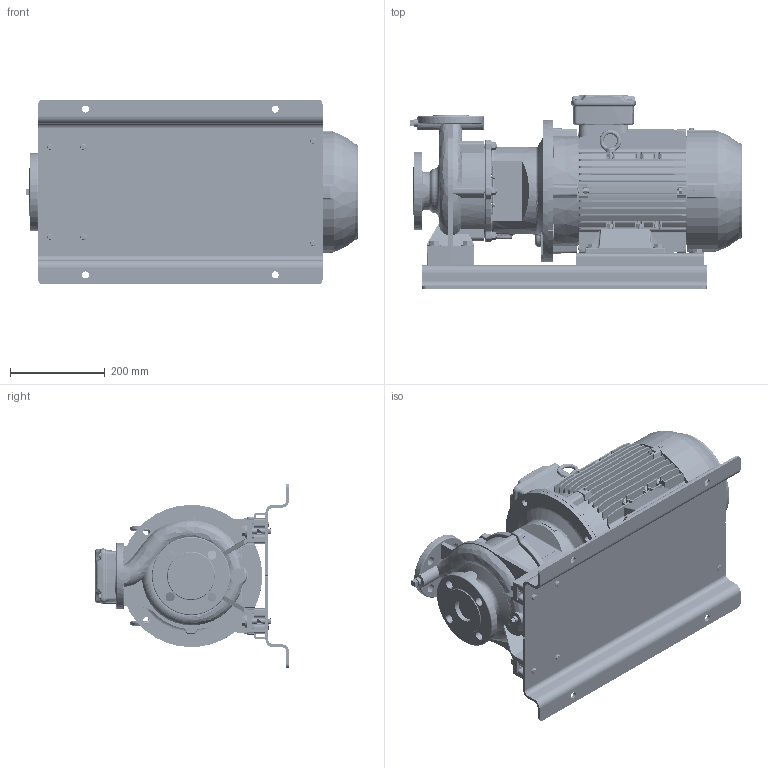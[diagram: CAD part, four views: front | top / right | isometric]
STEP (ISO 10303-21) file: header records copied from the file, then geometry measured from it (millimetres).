
FILE_DESCRIPTION (( 'STEP AP214' ), '1' );
FILE_NAME ('GSD2 32-160_5.5_(132S)_W21_BP.STEP', '2024-03-19T04:18:43', ( '' ), ( '' ), 'SwSTEP 2.0', 'SolidWorks 2019', '' );
FILE_SCHEMA (( 'AUTOMOTIVE_DESIGN' ));
Length unit declared in the file: millimetre
Products named in the file (21): Parametric bolt and washer_SFT-A253B; Parametric bolt and washer_SFT-A309B; 140_178 x 25 - CGSDA-5240; 132S ALIE3_W21T_B35; 32-160-132S; GSD2  32-160_5.5_(132S)_W21_BP; Parametric bolt_SFT-A301B; Parametric bolt_SFT-A253B; Parametric Flat Washer_M12; N3S3 GSDA-335 F1-1832907-00; Parametric Flat Washer_M10; CGS11-5301_2_3_4_5_CGS11-5302; Parametric bolt and washer_SFT-A301B; Parametric bolt_SFT-A309B
Assembly tree (37 placements, depth 3):
  GSD2  32-160_5.5_(132S)_W21_BP
    32-160-132S
    N3S3 GSDA-335 F1-1832907-00
    CGS11-5301_2_3_4_5_CGS11-5302  x2
    140_178 x 25 - CGSDA-5240  x2
    Parametric bolt and washer_SFT-A309B
      Parametric bolt_SFT-A309B
      Parametric Flat Washer_M12
    Parametric bolt and washer_SFT-A309B
      Parametric bolt_SFT-A309B
      Parametric Flat Washer_M12
    Parametric bolt and washer_SFT-A309B
      Parametric bolt_SFT-A309B
      Parametric Flat Washer_M12
    Parametric bolt and washer_SFT-A309B
      Parametric bolt_SFT-A309B
      Parametric Flat Washer_M12
    Parametric bolt and washer_SFT-A301B
      Parametric bolt_SFT-A301B
      Parametric Flat Washer_M12
    Parametric bolt and washer_SFT-A301B
      Parametric bolt_SFT-A301B
      Parametric Flat Washer_M12
    Parametric bolt and washer_SFT-A253B
      Parametric bolt_SFT-A253B
      Parametric Flat Washer_M10
    Parametric bolt and washer_SFT-A253B
      Parametric bolt_SFT-A253B
      Parametric Flat Washer_M10
    Parametric bolt and washer_SFT-A253B
      Parametric bolt_SFT-A253B
      Parametric Flat Washer_M10
    Parametric bolt and washer_SFT-A253B
      Parametric bolt_SFT-A253B
      Parametric Flat Washer_M10
    132S ALIE3_W21T_B35
Bounding box: 700.45 x 410 x 390 mm (x, y, z)
Volume: 27698013.5 mm3; surface area: 2421125.8 mm2
Topology: 44 solids, 44 shells, 4930 faces, 12874 edges, 8373 vertices
Faces by surface type: plane 2937, cylinder 1176, torus 305, bspline 253, cone 227, sphere 32
Entity records: 177102 total; most frequent: CARTESIAN_POINT 57069, ORIENTED_EDGE 23350, DIRECTION 21292, EDGE_CURVE 11675, VECTOR 7816, LINE 7816, VERTEX_POINT 7600, AXIS2_PLACEMENT_3D 6738
